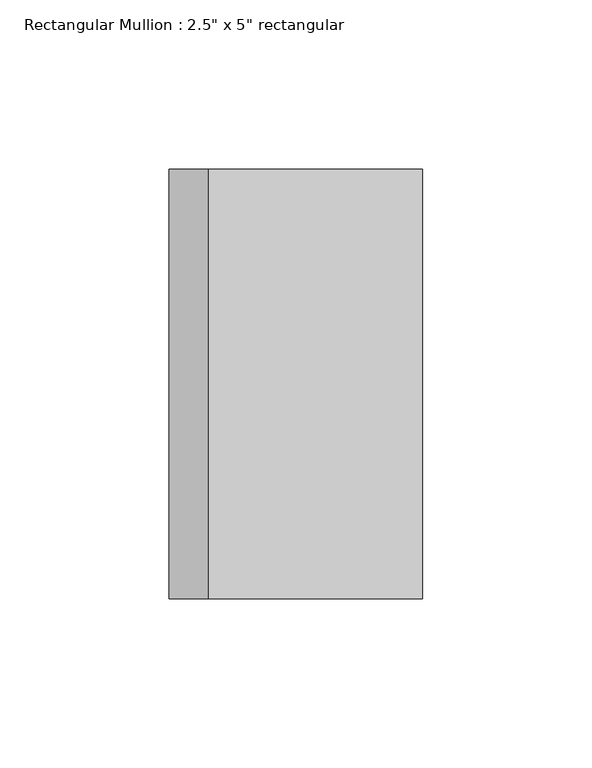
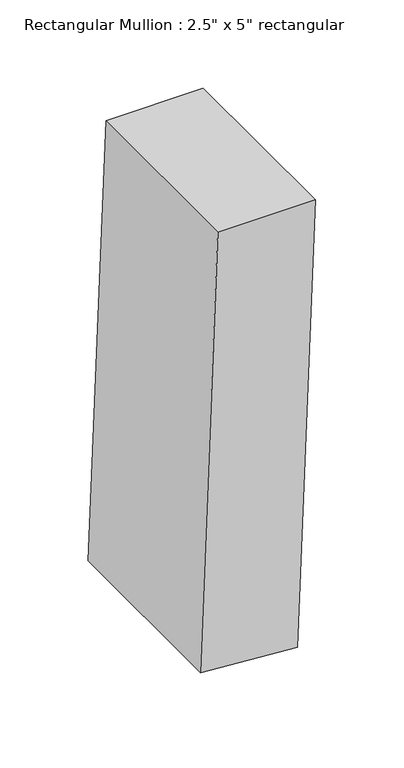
"""IFC4 building model written with IfcOpenShell, lengths in millimetres: member geometry."""

from ifc_helpers import new_model, si_unit, point, frame, frame_2d, origin, place, context, project, spatial, polyline, circle_curve, trimmed, segment, composite_curve, outline, extrude, source, transform, mapped, element, save


def member_fd4924df(model_context):
    return source(origin(), model_context, "Body", "SweptSolid", [
        extrude(outline(composite_curve([segment(trimmed(circle_curve(frame_2d((0.0, -3962.4)), 3962.4), [point((-304.8, -11.7404703))], [point((0.0, 0.0))], False, "CARTESIAN"), True, "CONTINUOUS"), segment(polyline([(0.0, 0.0), (0.0, -63.5)]), True, "CONTINUOUS"), segment(trimmed(circle_curve(frame_2d((0.0, -3962.4)), 3898.9), [point((0.0, -63.5))], [point((-299.9153846, -75.0523217))], True, "CARTESIAN"), True, "CONTINUOUS"), segment(polyline([(-299.9153846, -75.0523217), (-304.8, -11.7404703)]), True, "CONTINUOUS")], self_intersect=False)), frame((0.0, -63.5, 0.0), z_axis=(0.0, 1.0, 0.0), x_axis=(0.0, 0.0, 1.0)), (0.0, 0.0, 1.0), 127.0),
    ])


if __name__ == "__main__":
    model = new_model("IFC4")
    model_context = context("Model", 3, world=origin())
    ifc_project = project(units=[si_unit("LENGTHUNIT", "METRE", prefix="MILLI")], contexts=[model_context])
    site = spatial("IfcSite", under=ifc_project)
    building = spatial("IfcBuilding", under=site)
    placement = place(None, origin())
    member_shape = member_fd4924df(model_context)
    element("IfcMember", 1, ObjectType="Rectangular Mullion : 2.5\" x 5\" rectangular", at=placement, inside=building, context=model_context, shape_type="MappedRepresentation", body=[
        mapped(member_shape, transform((0.0, 0.0, 0.0), x_axis=(1.0, 0.0, 0.0), y_axis=(0.0, 1.0, 0.0), z_axis=(0.0, 0.0, 1.0))),
    ])
    save(model, "model.ifc")
